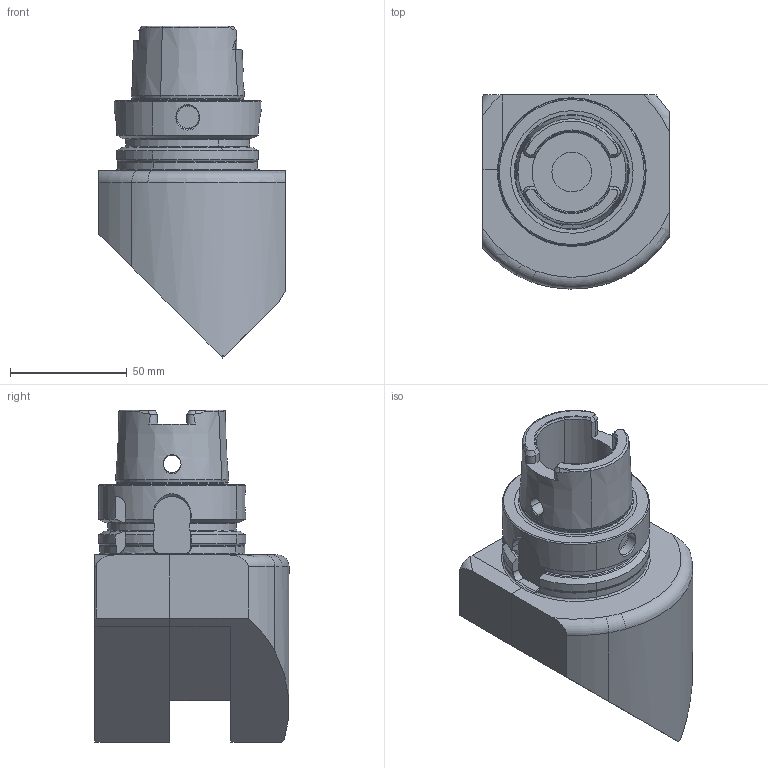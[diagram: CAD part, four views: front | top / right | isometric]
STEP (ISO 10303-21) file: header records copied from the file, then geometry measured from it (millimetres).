
FILE_DESCRIPTION(('CATIA V5 STEP','CAx-IF Rec.Pracs.--- Model Styling and Organization---1.2---2011-12-15'),'2;1');
FILE_NAME('\\nas01\drv1\utils\eitdev\rte\eit\transmagicconvert\db\out\635737606821469849\4505042D.stp','2015-07-29T06:58:07+00:00',('none'),('none'),'CATIA Version 5 Release 21 SP 5 (IN-10)','CATIA V5 STEP AP214','none');
FILE_SCHEMA(('AUTOMOTIVE_DESIGN { 1 0 10303 214 1 1 1 1 }'));
Length unit declared in the file: millimetre
Products named in the file (1): HSK A63WH-ASHL-25-45
Bounding box: 79.6 x 82.99 x 142 mm (x, y, z)
Volume: 398462.3 mm3; surface area: 52532.7 mm2
Topology: 1 solids, 1 shells, 236 faces, 616 edges, 386 vertices
Faces by surface type: plane 70, cone 57, cylinder 55, torus 34, bspline 16, extrusion 4
Entity records: 8127 total; most frequent: CARTESIAN_POINT 2963, ORIENTED_EDGE 1232, DIRECTION 763, EDGE_CURVE 616, VERTEX_POINT 386, AXIS2_PLACEMENT_3D 365, EDGE_LOOP 250, ADVANCED_FACE 236
